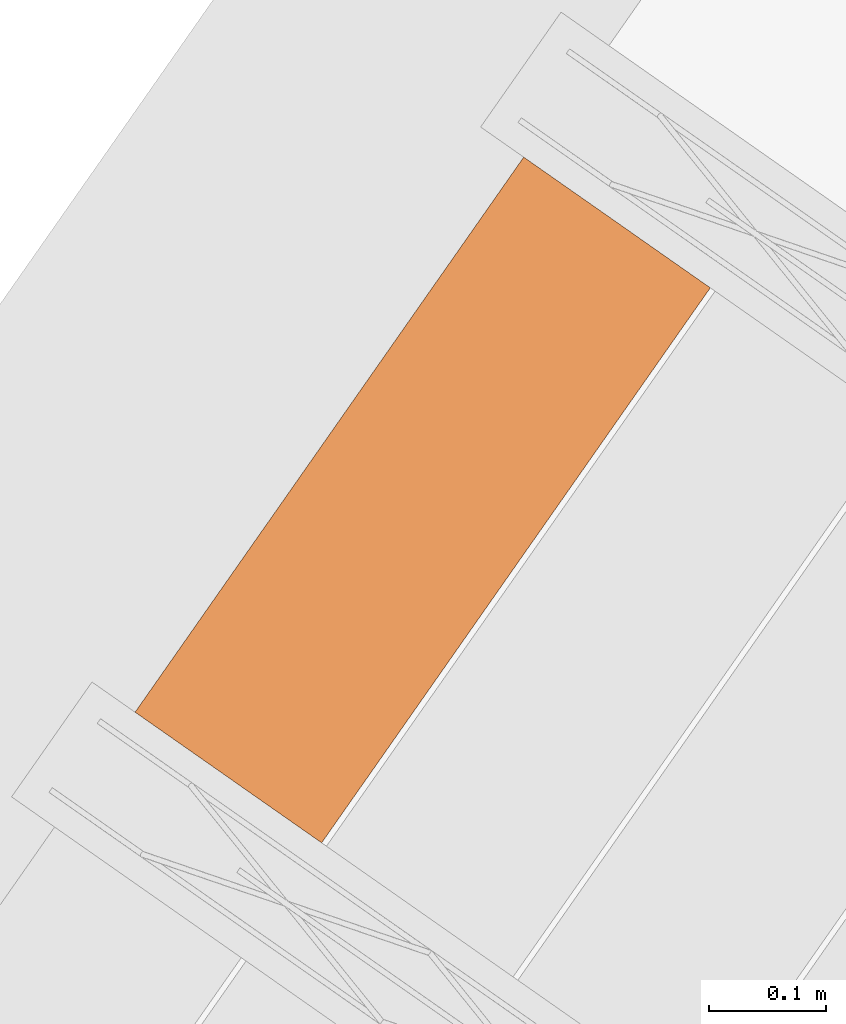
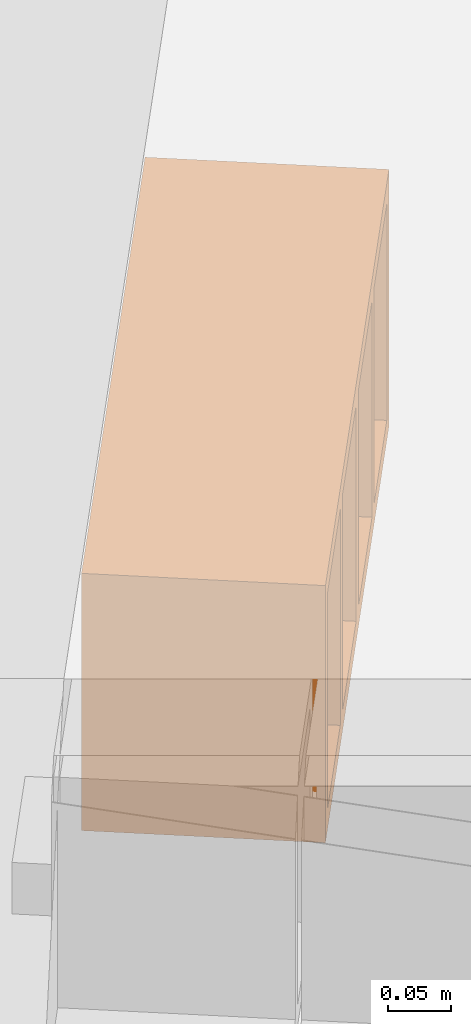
# One storey, part 46 of 46: 1 proxy.
"""IFC2X3 building model written with IfcOpenShell, lengths in metres."""

from ifc_helpers import new_model, entity, si_unit, converted_unit, derived_unit, direction, frame, origin, place, context, subcontext, project, spatial, polyline, outline, extrude, type_object, element, save


model = new_model("IFC2X3")

# Units and contexts
model_context = context("Model", 3, precision=1e-05, world=origin(), true_north=direction((6.123031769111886e-17, 1.0)))
body_context = subcontext(model_context, "Body", "Model", "MODEL_VIEW")
ifc_project = project(units=[si_unit("LENGTHUNIT", "METRE"), si_unit("AREAUNIT", "SQUARE_METRE"), si_unit("VOLUMEUNIT", "CUBIC_METRE"), converted_unit("PLANEANGLEUNIT", "DEGREE", entity("IfcPlaneAngleMeasure", 0.017453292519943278), si_unit("PLANEANGLEUNIT", "RADIAN"), dimensions=[0, 0, 0, 0, 0, 0, 0]), si_unit("MASSUNIT", "GRAM", prefix="KILO"), derived_unit("MASSDENSITYUNIT", [(si_unit("MASSUNIT", "GRAM", prefix="KILO"), 1), (si_unit("LENGTHUNIT", "METRE"), -3)]), derived_unit("IONCONCENTRATIONUNIT", [(si_unit("MASSUNIT", "GRAM", prefix="KILO"), 1), (si_unit("LENGTHUNIT", "METRE"), -3)]), derived_unit("MOMENTOFINERTIAUNIT", [(si_unit("LENGTHUNIT", "METRE"), 4)]), si_unit("TIMEUNIT", "SECOND"), si_unit("FREQUENCYUNIT", "HERTZ"), si_unit("THERMODYNAMICTEMPERATUREUNIT", "DEGREE_CELSIUS"), derived_unit("THERMALTRANSMITTANCEUNIT", [(si_unit("MASSUNIT", "GRAM", prefix="KILO"), 1), (si_unit("THERMODYNAMICTEMPERATUREUNIT", "KELVIN"), -1), (si_unit("TIMEUNIT", "SECOND"), -3)]), derived_unit("THERMALCONDUCTANCEUNIT", [(si_unit("MASSUNIT", "GRAM", prefix="KILO"), 1), (si_unit("THERMODYNAMICTEMPERATUREUNIT", "KELVIN"), -1), (si_unit("TIMEUNIT", "SECOND"), -3), (si_unit("LENGTHUNIT", "METRE"), 1)]), derived_unit("VOLUMETRICFLOWRATEUNIT", [(si_unit("LENGTHUNIT", "METRE", prefix="DECI"), 3), (si_unit("TIMEUNIT", "SECOND"), -1)]), derived_unit("MASSFLOWRATEUNIT", [(si_unit("MASSUNIT", "GRAM", prefix="KILO"), 1), (si_unit("TIMEUNIT", "SECOND"), -1)]), derived_unit("ROTATIONALFREQUENCYUNIT", [(si_unit("TIMEUNIT", "SECOND"), -1)]), si_unit("ELECTRICCURRENTUNIT", "AMPERE"), si_unit("ELECTRICVOLTAGEUNIT", "VOLT"), si_unit("POWERUNIT", "WATT"), si_unit("FORCEUNIT", "NEWTON", prefix="KILO"), si_unit("ILLUMINANCEUNIT", "LUX"), si_unit("LUMINOUSFLUXUNIT", "LUMEN"), si_unit("LUMINOUSINTENSITYUNIT", "CANDELA"), si_unit("ENERGYUNIT", "JOULE"), derived_unit("USERDEFINED", [(si_unit("MASSUNIT", "GRAM", prefix="KILO"), -1), (si_unit("LENGTHUNIT", "METRE"), -2), (si_unit("TIMEUNIT", "SECOND"), 3), (si_unit("LUMINOUSFLUXUNIT", "LUMEN"), 1)]), derived_unit("USERDEFINED", [(si_unit("MASSUNIT", "GRAM", prefix="KILO"), 1), (si_unit("TIMEUNIT", "SECOND"), -3), (si_unit("LENGTHUNIT", "METRE"), 3), (si_unit("ELECTRICCURRENTUNIT", "AMPERE"), -2)]), derived_unit("SOUNDPOWERUNIT", [(si_unit("MASSUNIT", "GRAM", prefix="KILO"), 1), (si_unit("TIMEUNIT", "SECOND"), -3), (si_unit("LENGTHUNIT", "METRE"), 2)]), derived_unit("SOUNDPRESSUREUNIT", [(si_unit("MASSUNIT", "GRAM", prefix="KILO"), 1), (si_unit("LENGTHUNIT", "METRE"), -1), (si_unit("TIMEUNIT", "SECOND"), -2)]), derived_unit("LINEARVELOCITYUNIT", [(si_unit("LENGTHUNIT", "METRE"), 1), (si_unit("TIMEUNIT", "SECOND"), -1)]), si_unit("PRESSUREUNIT", "PASCAL"), derived_unit("USERDEFINED", [(si_unit("MASSUNIT", "GRAM", prefix="KILO"), 1), (si_unit("LENGTHUNIT", "METRE"), -2), (si_unit("TIMEUNIT", "SECOND"), -2)]), derived_unit("LINEARFORCEUNIT", [(si_unit("MASSUNIT", "GRAM", prefix="KILO"), 1), (si_unit("TIMEUNIT", "SECOND"), -2)]), derived_unit("PLANARFORCEUNIT", [(si_unit("MASSUNIT", "GRAM", prefix="KILO"), 1), (si_unit("LENGTHUNIT", "METRE"), -1), (si_unit("TIMEUNIT", "SECOND"), -2)]), derived_unit("SPECIFICHEATCAPACITYUNIT", [(si_unit("THERMODYNAMICTEMPERATUREUNIT", "KELVIN"), -1), (si_unit("LENGTHUNIT", "METRE"), 2), (si_unit("TIMEUNIT", "SECOND"), -2)]), derived_unit("HEATFLUXDENSITYUNIT", [(si_unit("MASSUNIT", "GRAM", prefix="KILO"), 1), (si_unit("TIMEUNIT", "SECOND"), -3)]), derived_unit("HEATINGVALUEUNIT", [(si_unit("LENGTHUNIT", "METRE"), 2), (si_unit("TIMEUNIT", "SECOND"), -2)]), derived_unit("VAPORPERMEABILITYUNIT", [(si_unit("LENGTHUNIT", "METRE"), -1), (si_unit("TIMEUNIT", "SECOND"), 1)]), derived_unit("DYNAMICVISCOSITYUNIT", [(si_unit("MASSUNIT", "GRAM", prefix="KILO"), 1), (si_unit("TIMEUNIT", "SECOND"), -1), (si_unit("LENGTHUNIT", "METRE"), -1)]), derived_unit("THERMALEXPANSIONCOEFFICIENTUNIT", [(si_unit("THERMODYNAMICTEMPERATUREUNIT", "KELVIN"), -1)]), derived_unit("MODULUSOFELASTICITYUNIT", [(si_unit("MASSUNIT", "GRAM", prefix="KILO"), 1), (si_unit("LENGTHUNIT", "METRE"), -1), (si_unit("TIMEUNIT", "SECOND"), -2)]), derived_unit("ISOTHERMALMOISTURECAPACITYUNIT", [(si_unit("MASSUNIT", "GRAM", prefix="KILO"), -1), (si_unit("LENGTHUNIT", "METRE"), 3)]), derived_unit("MOISTUREDIFFUSIVITYUNIT", [(si_unit("TIMEUNIT", "SECOND"), -1), (si_unit("LENGTHUNIT", "METRE"), 2)]), derived_unit("MASSPERLENGTHUNIT", [(si_unit("MASSUNIT", "GRAM", prefix="KILO"), 1), (si_unit("LENGTHUNIT", "METRE"), -1)]), derived_unit("THERMALRESISTANCEUNIT", [(si_unit("MASSUNIT", "GRAM", prefix="KILO"), -1), (si_unit("TIMEUNIT", "SECOND"), 3), (si_unit("THERMODYNAMICTEMPERATUREUNIT", "KELVIN"), 1)]), derived_unit("ACCELERATIONUNIT", [(si_unit("LENGTHUNIT", "METRE"), 1), (si_unit("TIMEUNIT", "SECOND"), -2)]), derived_unit("ANGULARVELOCITYUNIT", [(si_unit("TIMEUNIT", "SECOND"), -1), (si_unit("PLANEANGLEUNIT", "RADIAN"), 1)]), derived_unit("LINEARSTIFFNESSUNIT", [(si_unit("MASSUNIT", "GRAM", prefix="KILO"), 1), (si_unit("TIMEUNIT", "SECOND"), -2)]), derived_unit("WARPINGCONSTANTUNIT", [(si_unit("LENGTHUNIT", "METRE"), 6)]), derived_unit("LINEARMOMENTUNIT", [(si_unit("MASSUNIT", "GRAM", prefix="KILO"), 1), (si_unit("LENGTHUNIT", "METRE"), 1), (si_unit("TIMEUNIT", "SECOND"), -2)]), derived_unit("TORQUEUNIT", [(si_unit("MASSUNIT", "GRAM", prefix="KILO"), 1), (si_unit("LENGTHUNIT", "METRE"), 2), (si_unit("TIMEUNIT", "SECOND"), -2)])], contexts=[model_context])

# Site, building, storey
site_placement = place(None, origin())
site = spatial("IfcSite", under=ifc_project, at=site_placement, Name="Default", CompositionType="ELEMENT")
building_placement = place(site_placement, origin())
building = spatial("IfcBuilding", under=site, at=building_placement, CompositionType="ELEMENT")
storey_placement = place(building_placement, frame((0.0, 0.0, 99.52000000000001)))
storey = spatial("IfcBuildingStorey", under=building, at=storey_placement, Name="F1", CompositionType="ELEMENT", Elevation=99.52000000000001)

# Proxy
building_element_proxy_type = type_object("IfcBuildingElementProxyType", Name="Bovedilla 4-16 (Paño 3)", PredefinedType="USERDEFINED")
proxy_placement = place(storey_placement, origin())
element("IfcBuildingElementProxy", 1, at=proxy_placement, inside=storey, type_object=building_element_proxy_type, Name="Bovedilla 4-16 (Paño 3)", ObjectType="FORM", context=body_context, shape_type="SweptSolid", body=[
    extrude(outline(polyline([(-0.28999999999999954, -0.12500000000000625), (0.28999999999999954, -0.12500000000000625), (0.28999999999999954, 0.12500000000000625), (-0.28999999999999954, 0.12500000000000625), (-0.28999999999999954, -0.12500000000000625)]), holes=[polyline([(0.26999999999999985, -0.10499999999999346), (0.15500000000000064, -0.10499999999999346), (0.15500000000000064, 0.10499999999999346), (0.26999999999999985, 0.10499999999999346), (0.26999999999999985, 0.042499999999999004), (0.26999999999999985, -0.10499999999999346)]), polyline([(0.009999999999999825, -0.10499999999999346), (0.009999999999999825, 0.10499999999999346), (0.13499999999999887, 0.10499999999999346), (0.13499999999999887, -0.10499999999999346), (0.009999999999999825, -0.10499999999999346)]), polyline([(-0.13499999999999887, 0.10499999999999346), (-0.009999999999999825, 0.10499999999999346), (-0.009999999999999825, -0.10499999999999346), (-0.13499999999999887, -0.10499999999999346), (-0.13499999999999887, 0.10499999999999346)]), polyline([(-0.26999999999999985, -0.10499999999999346), (-0.26999999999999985, 0.042499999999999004), (-0.26999999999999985, 0.10499999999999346), (-0.15500000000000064, 0.10499999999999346), (-0.15500000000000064, -0.10499999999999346), (-0.26999999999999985, -0.10499999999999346)])]), frame((11.920095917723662, 6.79140838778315, 0.3249999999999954), z_axis=(0.8191520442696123, -0.5735764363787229, 0.0), x_axis=(-0.5735764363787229, -0.8191520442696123, 0.0)), (0.0, 0.0, 1.0), 0.19499999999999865),
])

save(model, "model.ifc")
